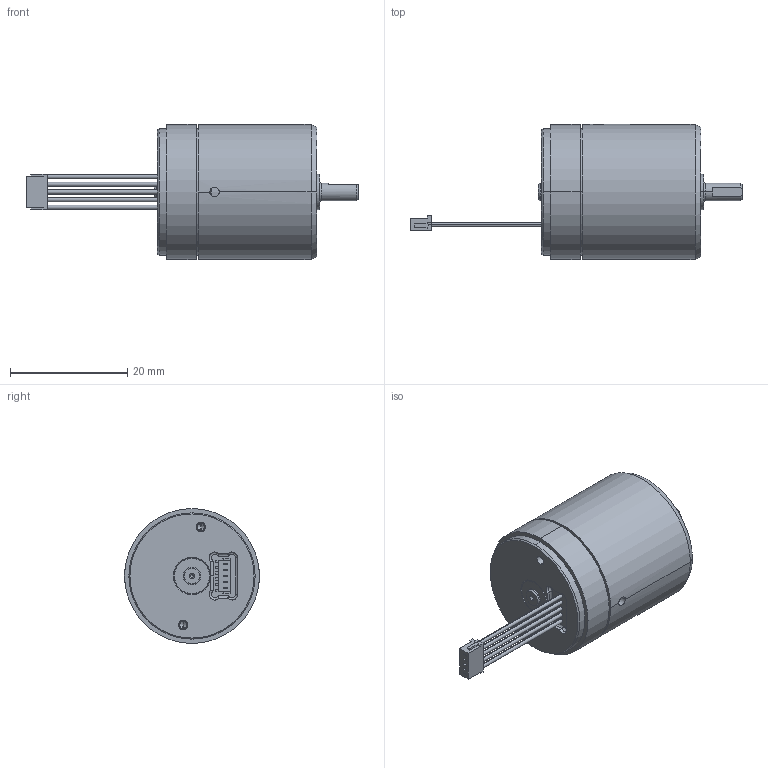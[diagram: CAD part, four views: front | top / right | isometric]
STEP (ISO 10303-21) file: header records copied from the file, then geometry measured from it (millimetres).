
FILE_DESCRIPTION (( 'STEP AP214' ), '1' );
FILE_NAME ('LR23-050D1AE0B10-Motor-PiezoMotor.STEP', '2019-03-29T21:47:06', ( '' ), ( '' ), 'SwSTEP 2.0', 'SolidWorks 2017', '' );
FILE_SCHEMA (( 'AUTOMOTIVE_DESIGN' ));
Length unit declared in the file: millimetre
Products named in the file (3): LR23-050D1AE0B10-Motor-PiezoMotor; LR23-050D1AE0B10-MotorShaft-PiezoMotor
Assembly tree (2 placements, depth 2):
  LR23-050D1AE0B10-Motor-PiezoMotor
    LR23-050D1AE0B10-Motor-PiezoMotor
    LR23-050D1AE0B10-MotorShaft-PiezoMotor
Bounding box: 56.56 x 23 x 23 mm (x, y, z)
Volume: 7525.4 mm3; surface area: 7972.8 mm2
Topology: 11 solids, 11 shells, 379 faces, 916 edges, 567 vertices
Faces by surface type: plane 146, cylinder 130, cone 71, torus 28, bspline 4
Entity records: 11772 total; most frequent: CARTESIAN_POINT 2543, DIRECTION 1977, ORIENTED_EDGE 1800, EDGE_CURVE 900, AXIS2_PLACEMENT_3D 735, VERTEX_POINT 567, VECTOR 507, LINE 507
